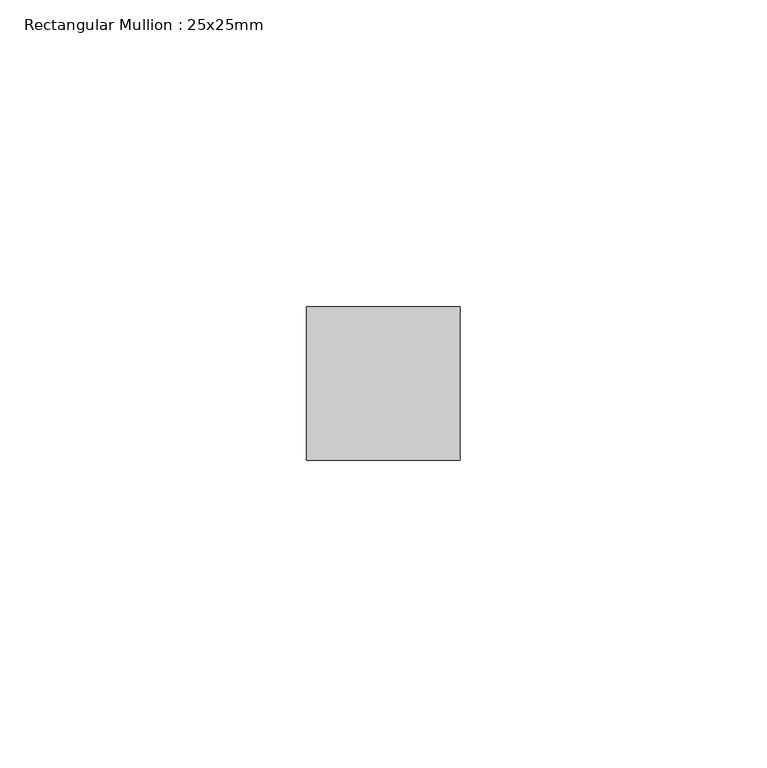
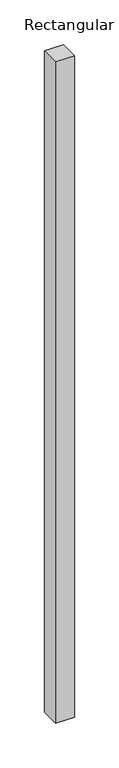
"""IFC4 building model written with IfcOpenShell, lengths in millimetres: member geometry, Rectangular Mullion : 25x25mm."""

import ifcopenshell
import ifcopenshell.guid

model = None  # the IFC model being written
_history = None  # IfcOwnerHistory: only IFC2X3 demands one
_inside = {}  # id of a spatial element -> (the spatial element, [elements in it])
_under = {}  # id of a project, library or spatial element -> (it, [spatial elements below it])
_declared = {}  # id of a project -> (the project, [libraries it declares])
_typed = {}  # id of a type object -> (the type object, [elements of that type])
_made_of = {}  # id of a material, layer set ... -> (it, [elements and type objects made of it])


def new_model(schema):
    """Start an empty IFC model of exactly this schema.

    Asked for "IFC4X3", IfcOpenShell would pick the latest addendum, in which some entities
    have other attributes; the version numbers below select the first issue.
    IFC2X3 requires an IfcOwnerHistory on every rooted entity: one is made here for all.
    """
    global model, _history
    if schema == "IFC4X3":
        model = ifcopenshell.file(schema_version=(4, 3, 0, 0))
    else:
        model = ifcopenshell.file(schema=schema)
    _inside.clear()
    _under.clear()
    _declared.clear()
    _typed.clear()
    _made_of.clear()
    _history = None
    if model.schema == "IFC2X3":
        org = make("IfcOrganization", Name="unknown")
        user = make(
            "IfcPersonAndOrganization",
            ThePerson=make("IfcPerson", FamilyName="unknown"),
            TheOrganization=org,
        )
        app = make(
            "IfcApplication",
            ApplicationDeveloper=org,
            Version="unknown",
            ApplicationFullName="unknown",
            ApplicationIdentifier="unknown",
        )
        _history = make(
            "IfcOwnerHistory",
            OwningUser=user,
            OwningApplication=app,
            ChangeAction="ADDED",
            CreationDate=0,
        )
    return model


def make(cls, **values):
    """One entity of the class cls with the attributes given. An attribute that is None is left unset."""
    return model.create_entity(
        cls, **{name: value for name, value in values.items() if value is not None}
    )


def rooted(cls, **values):
    """An entity with a GlobalId (a new one), such as an element, a storey or a relation."""
    return make(cls, GlobalId=ifcopenshell.guid.new(), OwnerHistory=_history, **values)


def si_unit(unit_type, name, prefix=None):
    """IfcSIUnit, for example si_unit("LENGTHUNIT", "METRE", prefix="MILLI")."""
    return make("IfcSIUnit", UnitType=unit_type, Prefix=prefix, Name=name)


def assignment(units):
    """IfcUnitAssignment: the units of a project."""
    return None if units is None else make("IfcUnitAssignment", Units=units)


def point(xyz):
    """IfcCartesianPoint."""
    return None if xyz is None else make("IfcCartesianPoint", Coordinates=xyz)


def direction(xyz):
    """IfcDirection."""
    return None if xyz is None else make("IfcDirection", DirectionRatios=xyz)


def frame(location, z_axis=None, x_axis=None):
    """IfcAxis2Placement3D, a coordinate frame: its origin and axes. An axis left out is left unset."""
    return make(
        "IfcAxis2Placement3D",
        Location=point(location),
        Axis=direction(z_axis),
        RefDirection=direction(x_axis),
    )


def origin():
    """The frame at (0, 0, 0) with its axes left unset."""
    return frame((0.0, 0.0, 0.0))


def place(relative_to, where):
    """IfcLocalPlacement: puts the frame where relative to a parent placement (None: the world)."""
    return make(
        "IfcLocalPlacement", PlacementRelTo=relative_to, RelativePlacement=where
    )


def context(
    kind, dimensions, precision=None, world=None, true_north=None, identifier=None
):
    """IfcGeometricRepresentationContext, for example the 3D "Model" context."""
    return make(
        "IfcGeometricRepresentationContext",
        ContextIdentifier=identifier,
        ContextType=kind,
        CoordinateSpaceDimension=dimensions,
        Precision=precision,
        WorldCoordinateSystem=world,
        TrueNorth=true_north,
    )


def project(units=None, contexts=None):
    """IfcProject with its units and contexts."""
    return rooted(
        "IfcProject",
        Name="project",
        RepresentationContexts=contexts,
        UnitsInContext=assignment(units),
    )


def spatial(cls, under=None, at=None, **own):
    """A site, building, storey or space (cls), placed at a placement, below another one or the project."""
    s = rooted(cls, ObjectPlacement=at, **own)
    if under is not None:
        _under.setdefault(under.id(), (under, []))[1].append(s)
    return s


def polyline(points):
    """IfcPolyline through the points."""
    return make("IfcPolyline", Points=[point(p) for p in points])


def outline(outer, holes=None, kind="AREA"):
    """IfcArbitraryClosedProfileDef: a profile drawn as a closed curve; with holes, ...WithVoids."""
    if holes is None:
        return make("IfcArbitraryClosedProfileDef", ProfileType=kind, OuterCurve=outer)
    return make(
        "IfcArbitraryProfileDefWithVoids",
        ProfileType=kind,
        OuterCurve=outer,
        InnerCurves=holes,
    )


def extrude(swept, where, along, depth):
    """IfcExtrudedAreaSolid: the profile swept, set in the frame where, extruded along a direction by depth."""
    return make(
        "IfcExtrudedAreaSolid",
        SweptArea=swept,
        Position=where,
        ExtrudedDirection=direction(along),
        Depth=depth,
    )


def shape(context_of_items, identifier, shape_type, items):
    """IfcShapeRepresentation: the items that make up one representation, for example the "Body"."""
    return make(
        "IfcShapeRepresentation",
        ContextOfItems=context_of_items,
        RepresentationIdentifier=identifier,
        RepresentationType=shape_type,
        Items=items,
    )


def source(mapping_origin, context_of_items, identifier, shape_type, items):
    """IfcRepresentationMap: a shape defined once, which mapped items show again and again."""
    return make(
        "IfcRepresentationMap",
        MappingOrigin=mapping_origin,
        MappedRepresentation=shape(context_of_items, identifier, shape_type, items),
    )


def transform(
    local_origin,
    x_axis=None,
    y_axis=None,
    z_axis=None,
    scale=None,
    scale2=None,
    scale3=None,
    uniform=True,
):
    """IfcCartesianTransformationOperator3D, or its non-uniform kind. x_axis, y_axis, z_axis: its Axis1, 2, 3."""
    if uniform:
        return make(
            "IfcCartesianTransformationOperator3D",
            Axis1=direction(x_axis),
            Axis2=direction(y_axis),
            LocalOrigin=point(local_origin),
            Scale=scale,
            Axis3=direction(z_axis),
        )
    return make(
        "IfcCartesianTransformationOperator3DnonUniform",
        Axis1=direction(x_axis),
        Axis2=direction(y_axis),
        LocalOrigin=point(local_origin),
        Scale=scale,
        Axis3=direction(z_axis),
        Scale2=scale2,
        Scale3=scale3,
    )


def mapped(mapping_source, mapping_target):
    """IfcMappedItem: shows the shape of a source again, moved by a transform."""
    return make(
        "IfcMappedItem", MappingSource=mapping_source, MappingTarget=mapping_target
    )


def made_of(thing, what):
    """Note that an element or type object is made of a material, layer set ...; save() writes the relation."""
    if what is not None:
        _made_of.setdefault(what.id(), (what, []))[1].append(thing)
    return thing


def element(
    cls,
    number,
    at=None,
    inside=None,
    cuts=None,
    type_object=None,
    material=None,
    context=None,
    identifier="Body",
    shape_type=None,
    held_by="IfcProductDefinitionShape",
    body=None,
    shapes=None,
    **own,
):
    """One element of the class cls, such as IfcWall. Its Tag is "e" and its number.

    at: its placement. inside: the storey or other place that contains it. cuts: it is an
    opening in that element (IfcRelVoidsElement). A single representation is given by context,
    identifier, shape_type and body (its items); several are given by shapes. held_by: the class
    of the entity that holds the representations. save() writes the other relations.
    """
    e = rooted(cls, Tag="e%d" % number, ObjectPlacement=at, **own)
    if body is not None:
        shapes = [shape(context, identifier, shape_type, body)]
    if shapes is not None:
        e.Representation = make(held_by, Representations=shapes)
    if inside is not None:
        _inside.setdefault(inside.id(), (inside, []))[1].append(e)
    if cuts is not None:
        rooted(
            "IfcRelVoidsElement", RelatingBuildingElement=cuts, RelatedOpeningElement=e
        )
    if type_object is not None:
        _typed.setdefault(type_object.id(), (type_object, []))[1].append(e)
    return made_of(e, material)


def aggregate(whole, parts):
    """IfcRelAggregates: a whole, such as a stair, and the parts it consists of."""
    return rooted("IfcRelAggregates", RelatingObject=whole, RelatedObjects=parts)


def save(model, path):
    """Write the relations noted so far, then the file.

    IfcRelAggregates (storeys below a building ...), IfcRelContainedInSpatialStructure (elements
    in a storey), IfcRelDefinesByType, IfcRelAssociatesMaterial and IfcRelDeclares: one each for
    every whole, place, type object, material and project.
    """
    for whole, parts in _under.values():
        aggregate(whole, parts)
    for where, things in _inside.values():
        rooted(
            "IfcRelContainedInSpatialStructure",
            RelatedElements=things,
            RelatingStructure=where,
        )
    for kind, things in _typed.values():
        rooted("IfcRelDefinesByType", RelatedObjects=things, RelatingType=kind)
    for what, things in _made_of.values():
        rooted("IfcRelAssociatesMaterial", RelatedObjects=things, RelatingMaterial=what)
    for by, libraries in _declared.values():
        rooted("IfcRelDeclares", RelatingContext=by, RelatedDefinitions=libraries)
    model.write(path)


def rectangular_mullion_25x25mm_e320bbb5(model_context):
    return source(origin(), model_context, "Body", "SweptSolid", [
        extrude(outline(polyline([(0.0, 24.5), (0.0, -0.5), (-25.0, -0.5), (-25.0, 24.5), (0.0, 24.5)])), frame((0.0, 0.0, -906.7603315), z_axis=(0.0, 0.0, 1.0), x_axis=(1.0, 0.0, 0.0)), (0.0, 0.0, 1.0), 906.7603315),
    ])


if __name__ == "__main__":
    model = new_model("IFC4")
    model_context = context("Model", 3, world=origin())
    ifc_project = project(units=[si_unit("LENGTHUNIT", "METRE", prefix="MILLI")], contexts=[model_context])
    site = spatial("IfcSite", under=ifc_project)
    building = spatial("IfcBuilding", under=site)
    placement = place(None, origin())
    rectangular_mullion_25x25mm_shape = rectangular_mullion_25x25mm_e320bbb5(model_context)
    element("IfcMember", 1, ObjectType="Rectangular Mullion : 25x25mm", at=placement, inside=building, context=model_context, shape_type="MappedRepresentation", body=[
        mapped(rectangular_mullion_25x25mm_shape, transform((0.0, 0.0, 0.0), x_axis=(1.0, 0.0, 0.0), y_axis=(0.0, 1.0, 0.0), z_axis=(0.0, 0.0, 1.0))),
    ])
    save(model, "model.ifc")
